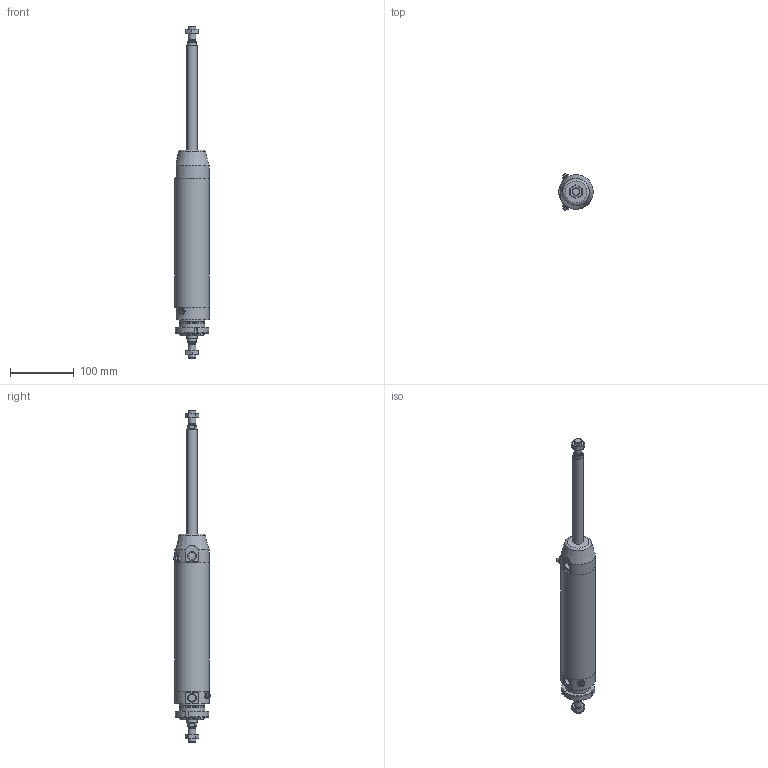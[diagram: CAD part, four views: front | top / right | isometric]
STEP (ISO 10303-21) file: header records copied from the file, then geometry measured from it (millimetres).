
FILE_DESCRIPTION(/* description */ (''),/* implementation_level */ '2;1');
FILE_NAME(/* name */ 'I:\Area Tecnica\Documenti\A-Manieri\_Inventor\12X\12X#T_###_####_#_#\12XDT_050_0160_#_#.stp',/* time_stamp */ '2015-05-13T09:09:06+02:00',/* author */ ('maniean1'),/* organization */ ('Pneumax S.p.A.'),/* preprocessor_version */ 'ST-DEVELOPER v15.2',/* originating_system */ 'Autodesk Inventor 2014',/* authorisation */ '');
FILE_SCHEMA (('AUTOMOTIVE_DESIGN { 1 0 10303 214 3 1 1 }'));
Length unit declared in the file: millimetre
Products named in the file (7): C1250_619-0160; 12X50_606; SP12X50_0160; 12X_50_11; 12X50_614; G12X_050_05; 12XDT_050_0160_#_#
Bounding box: 54 x 57.75 x 522 mm (x, y, z)
Volume: 401083.9 mm3; surface area: 133079.3 mm2
Topology: 7 solids, 7 shells, 125 faces, 280 edges, 180 vertices
Faces by surface type: plane 66, cylinder 30, cone 26, torus 3
Full cylindrical faces by diameter (mm): 5 x2, 10.2 x2, 11 x2, 11.4 x2, 12 x4, 14 x2, 15.6 x2, 16 x2, 38.2 x1, 40 x3, 50 x2, 54 x3
Entity records: 3058 total; most frequent: CARTESIAN_POINT 614, DIRECTION 513, ORIENTED_EDGE 402, AXIS2_PLACEMENT_3D 219, EDGE_CURVE 201, EDGE_LOOP 178, VERTEX_POINT 153, ADVANCED_FACE 114
